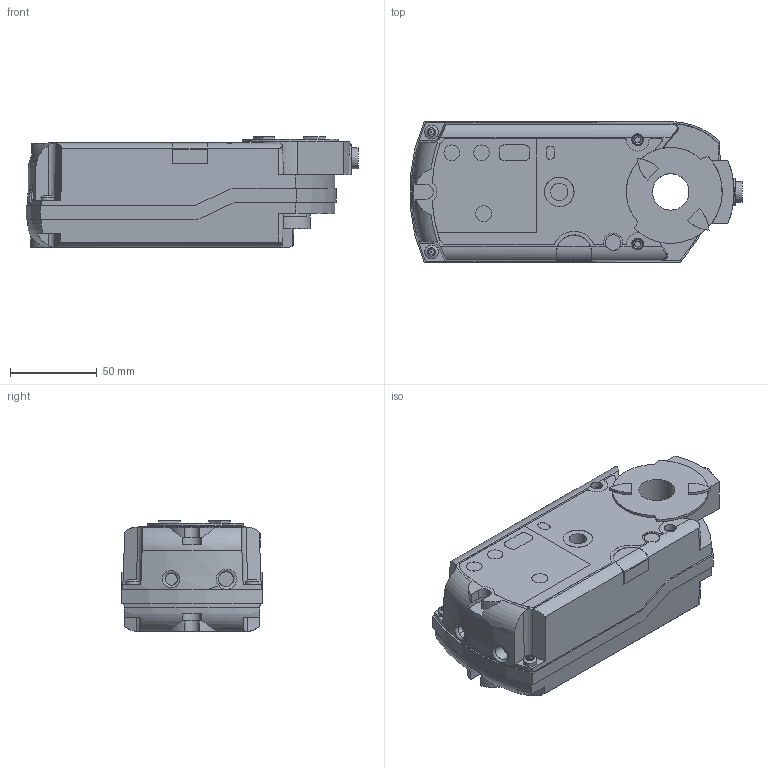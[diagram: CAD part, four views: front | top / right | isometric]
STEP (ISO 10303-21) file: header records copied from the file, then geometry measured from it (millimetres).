
FILE_DESCRIPTION(/* description */ (''),/* implementation_level */ '2;1');
FILE_NAME(/* name */ 'GAP..1E.stp',/* time_stamp */ '2014-09-15T14:37:56+02:00',/* author */ (''),/* organization */ (''),/* preprocessor_version */ 'ST-DEVELOPER v15',/* originating_system */ 'SIEMENS PLM Software NX 8.5',/* authorisation */ '');
FILE_SCHEMA (('AUTOMOTIVE_DESIGN { 1 0 10303 214 3 1 1 1 }'));
Length unit declared in the file: millimetre
Products named in the file (1): 8000077295_01
Bounding box: 190.95 x 81 x 63.7 mm (x, y, z)
Volume: 702466.7 mm3; surface area: 65299.6 mm2
Topology: 1 solids, 1 shells, 284 faces, 772 edges, 508 vertices
Faces by surface type: plane 131, cylinder 116, cone 27, torus 6, bspline 4
Full cylindrical faces by diameter (mm): 0.6 x2, 6.9 x1, 8 x2, 8.5 x1, 9 x6, 9.2 x1, 10 x1, 12 x1, 17 x1, 21 x1, 27 x1
Entity records: 11273 total; most frequent: CARTESIAN_POINT 2236, DIRECTION 1525, ORIENTED_EDGE 1418, EDGE_CURVE 709, AXIS2_PLACEMENT_3D 599, VERTEX_POINT 483, EDGE_LOOP 342, LINE 327
